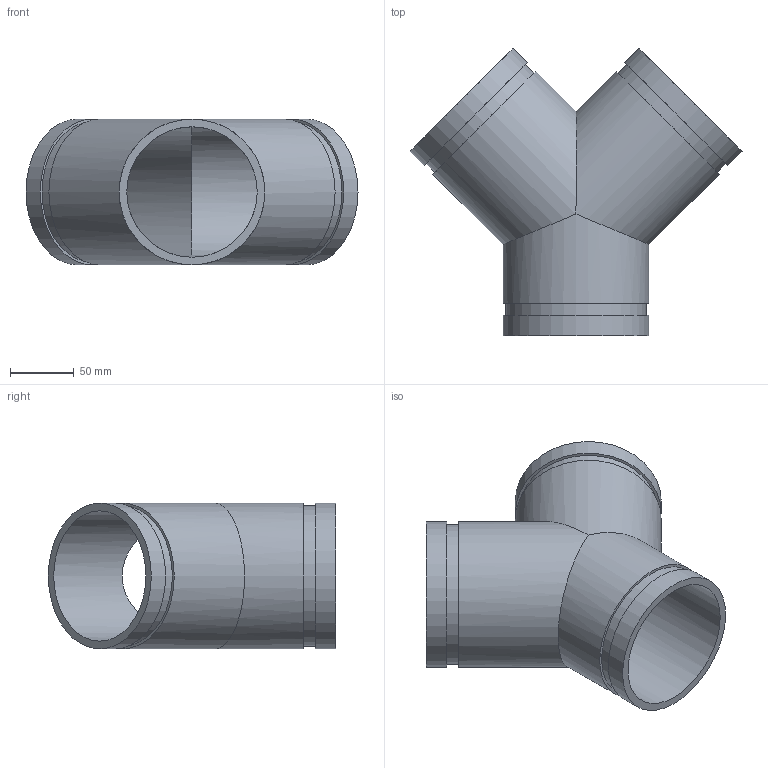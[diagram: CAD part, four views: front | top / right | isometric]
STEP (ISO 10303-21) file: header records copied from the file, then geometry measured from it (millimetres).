
FILE_DESCRIPTION(/* description */ ('This is default description.','CAx-IF Rec.Pracs.---Representation and Presentation of Product Manufacturing Information (PMI)---4.0---2014-10-13'),/* implementation_level */ '2;1');
FILE_NAME(/* name */ 'C:\Users\kkamble\AppData\Roaming\Autodesk\ApplicationPlugins\Back Up\Victaulic_IPS-Tee- Wye_ No 33 SWS (OGS)\Victaulic_IPS-Tee- Wye_ No 33 SWS (OGS)_4.stp',/* time_stamp */ '2020-09-16T22:08:13+06:00',/* author */ ('cgray'),/* organization */ ('Victaulic'),/* preprocessor_version */ 'ST-DEVELOPER v17.2',/* originating_system */ 'Autodesk Inventor 2019',/* authorisation */ '');
FILE_SCHEMA (('AP242_MANAGED_MODEL_BASED_3D_ENGINEERING_MIM_LF { 1 0 10303 442 1 1 4 }'));
Length unit declared in the file: inch
Products named in the file (1): 33 SWS-04.0
Bounding box: 260.43 x 225.46 x 114.3 mm (x, y, z)
Volume: 564767.6 mm3; surface area: 204825.8 mm2
Topology: 1 solids, 1 shells, 21 faces, 48 edges, 34 vertices
Faces by surface type: cylinder 12, plane 9
Full cylindrical faces by diameter (mm): 102.26 x3, 110.084 x3, 114.3 x6
Entity records: 787 total; most frequent: DIRECTION 154, CARTESIAN_POINT 121, ORIENTED_EDGE 96, AXIS2_PLACEMENT_3D 71, EDGE_CURVE 48, VERTEX_POINT 34, EDGE_LOOP 30, CIRCLE 26
